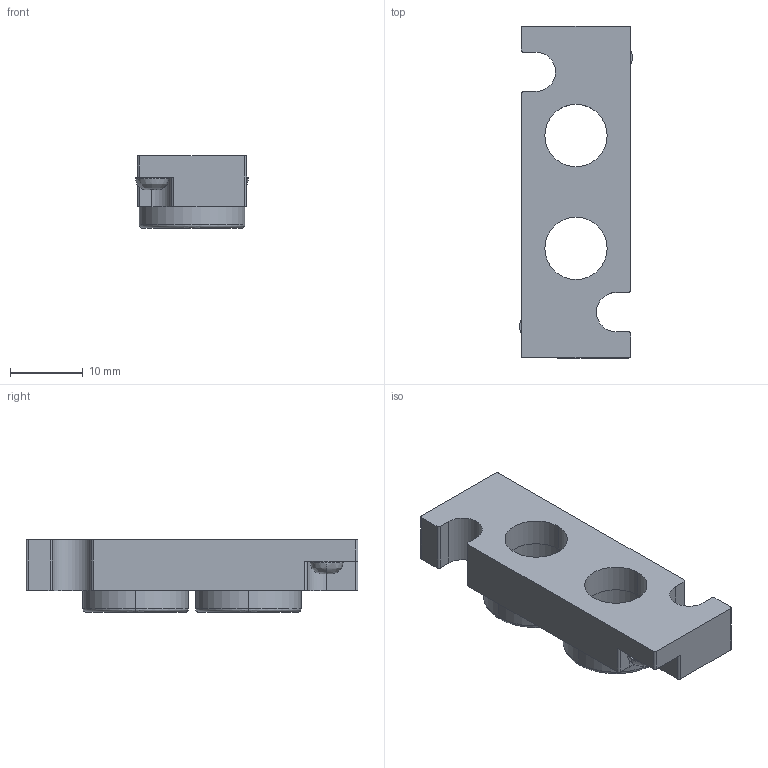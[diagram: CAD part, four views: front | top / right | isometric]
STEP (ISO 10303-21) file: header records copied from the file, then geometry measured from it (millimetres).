
FILE_DESCRIPTION( (''), '2;1');
FILE_NAME ('CVICAD02.6296.F15_Port-VM_23640.stp','2021-07-12T19:23:44',(''),(''),'spGate 12.6.6','','');
FILE_SCHEMA (('AUTOMOTIVE_DESIGN'));
Length unit declared in the file: millimetre
Bounding box: 15.5 x 45.6 x 10 mm (x, y, z)
Volume: 3927.4 mm3; surface area: 2821.4 mm2
Topology: 1 solids, 1 shells, 70 faces, 176 edges, 112 vertices
Faces by surface type: cylinder 28, plane 26, bspline 16
Entity records: 3739 total; most frequent: CARTESIAN_POINT 668, ORIENTED_EDGE 352, DIRECTION 336, COLOUR_RGB 247, PRESENTATION_STYLE_ASSIGNMENT 247, STYLED_ITEM 247, EDGE_CURVE 176, DRAUGHTING_PRE_DEFINED_CURVE_FONT 176
